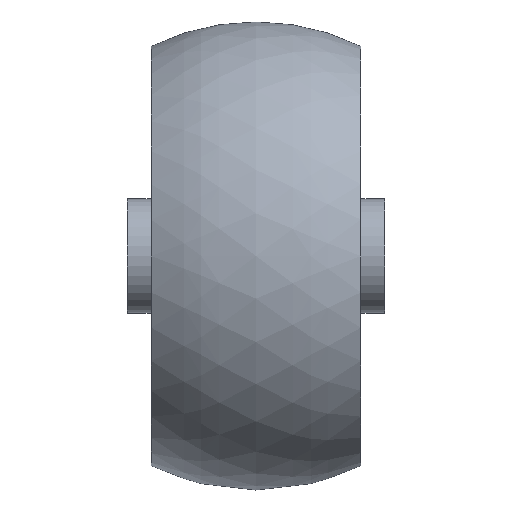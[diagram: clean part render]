
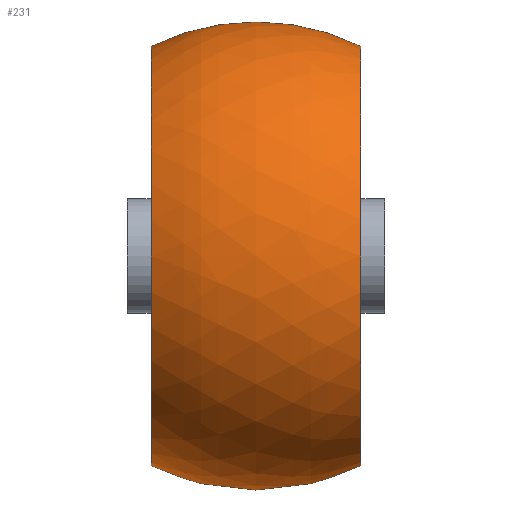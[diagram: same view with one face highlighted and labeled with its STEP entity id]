
A CAD part, front view. The second image highlights one B-rep face of the part: STEP entity #231.
In plain terms, the highlighted free-form (B-spline) face has degree [2, 2] with [3, 9] control points.
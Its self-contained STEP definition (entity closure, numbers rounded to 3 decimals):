
#15=(
BOUNDED_SURFACE()
B_SPLINE_SURFACE(2,2,((#440,#441,#442,#443,#444,#445,#446,#447,#448),(#449,
#450,#451,#452,#453,#454,#455,#456,#457),(#458,#459,#460,#461,#462,#463,
#464,#465,#466)),.UNSPECIFIED.,.F.,.T.,.F.)
B_SPLINE_SURFACE_WITH_KNOTS((3,3),(3,2,2,2,3),(-0.456,0.456),
(-3.142,-1.571,0.,1.571,3.142),
 .UNSPECIFIED.)
GEOMETRIC_REPRESENTATION_ITEM()
RATIONAL_B_SPLINE_SURFACE(((1.,0.707,1.,0.707,1.,
0.707,1.,0.707,1.),(0.898,0.635,
0.898,0.635,0.898,0.635,
0.898,0.635,0.898),(1.,0.707,
1.,0.707,1.,0.707,1.,0.707,1.)))
REPRESENTATION_ITEM('')
SURFACE()
);
#54=FACE_OUTER_BOUND('',#73,.T.);
#73=EDGE_LOOP('',(#202,#203,#204,#205));
#101=CIRCLE('',#290,22.);
#102=CIRCLE('',#291,22.);
#103=CIRCLE('',#292,25.);
#122=VERTEX_POINT('',#438);
#123=VERTEX_POINT('',#467);
#150=EDGE_CURVE('',#122,#122,#101,.T.);
#151=EDGE_CURVE('',#123,#123,#102,.T.);
#152=EDGE_CURVE('',#123,#122,#103,.T.);
#202=ORIENTED_EDGE('',*,*,#151,.F.);
#203=ORIENTED_EDGE('',*,*,#152,.T.);
#204=ORIENTED_EDGE('',*,*,#150,.T.);
#205=ORIENTED_EDGE('',*,*,#152,.F.);
#231=ADVANCED_FACE('',(#54),#15,.F.);
#290=AXIS2_PLACEMENT_3D('',#439,#367,#368);
#291=AXIS2_PLACEMENT_3D('',#468,#369,#370);
#292=AXIS2_PLACEMENT_3D('',#469,#371,#372);
#367=DIRECTION('center_axis',(1.,0.,0.));
#368=DIRECTION('ref_axis',(0.,0.,-1.));
#369=DIRECTION('center_axis',(1.,0.,0.));
#370=DIRECTION('ref_axis',(0.,0.,-1.));
#371=DIRECTION('center_axis',(0.,-1.,0.));
#372=DIRECTION('ref_axis',(0.,0.,1.));
#438=CARTESIAN_POINT('',(-11.,0.,22.));
#439=CARTESIAN_POINT('Origin',(-11.,0.,0.));
#440=CARTESIAN_POINT('Ctrl Pts',(-11.,0.,22.));
#441=CARTESIAN_POINT('Ctrl Pts',(-11.,-22.,22.));
#442=CARTESIAN_POINT('Ctrl Pts',(-11.,-22.,0.));
#443=CARTESIAN_POINT('Ctrl Pts',(-11.,-22.,-22.));
#444=CARTESIAN_POINT('Ctrl Pts',(-11.,0.,-22.));
#445=CARTESIAN_POINT('Ctrl Pts',(-11.,22.,-22.));
#446=CARTESIAN_POINT('Ctrl Pts',(-11.,22.,0.));
#447=CARTESIAN_POINT('Ctrl Pts',(-11.,22.,22.));
#448=CARTESIAN_POINT('Ctrl Pts',(-11.,0.,22.));
#449=CARTESIAN_POINT('Ctrl Pts',(0.,0.,
27.39));
#450=CARTESIAN_POINT('Ctrl Pts',(0.,-27.39,
27.39));
#451=CARTESIAN_POINT('Ctrl Pts',(0.,-27.39,
0.));
#452=CARTESIAN_POINT('Ctrl Pts',(0.,-27.39,
-27.39));
#453=CARTESIAN_POINT('Ctrl Pts',(0.,0.,
-27.39));
#454=CARTESIAN_POINT('Ctrl Pts',(0.,27.39,
-27.39));
#455=CARTESIAN_POINT('Ctrl Pts',(0.,27.39,
0.));
#456=CARTESIAN_POINT('Ctrl Pts',(0.,27.39,
27.39));
#457=CARTESIAN_POINT('Ctrl Pts',(0.,0.,
27.39));
#458=CARTESIAN_POINT('Ctrl Pts',(11.,0.,22.));
#459=CARTESIAN_POINT('Ctrl Pts',(11.,-22.,22.));
#460=CARTESIAN_POINT('Ctrl Pts',(11.,-22.,0.));
#461=CARTESIAN_POINT('Ctrl Pts',(11.,-22.,-22.));
#462=CARTESIAN_POINT('Ctrl Pts',(11.,0.,-22.));
#463=CARTESIAN_POINT('Ctrl Pts',(11.,22.,-22.));
#464=CARTESIAN_POINT('Ctrl Pts',(11.,22.,0.));
#465=CARTESIAN_POINT('Ctrl Pts',(11.,22.,22.));
#466=CARTESIAN_POINT('Ctrl Pts',(11.,0.,22.));
#467=CARTESIAN_POINT('',(11.,0.,22.));
#468=CARTESIAN_POINT('Origin',(11.,0.,0.));
#469=CARTESIAN_POINT('Origin',(0.,0.,
-0.45));
